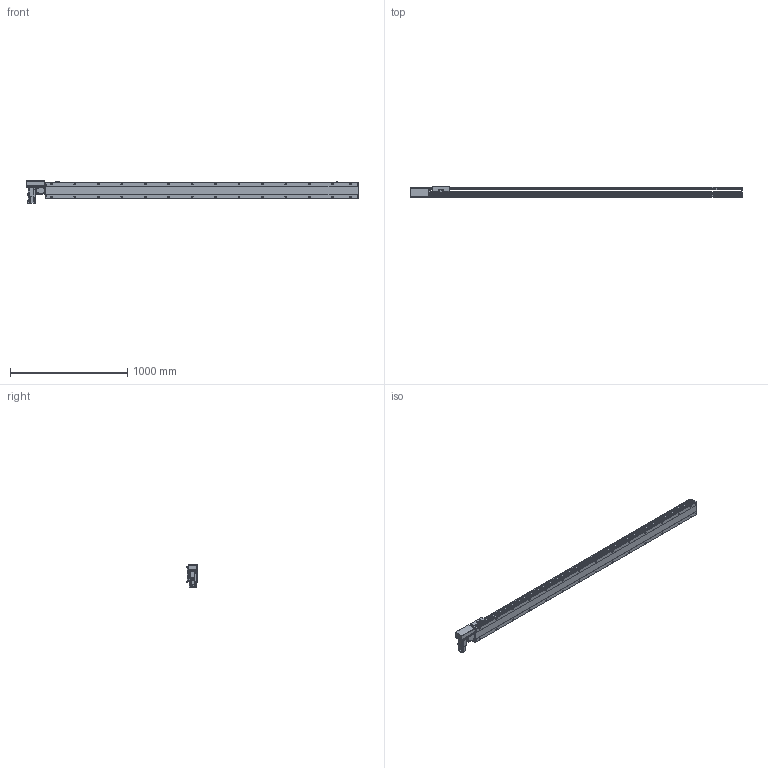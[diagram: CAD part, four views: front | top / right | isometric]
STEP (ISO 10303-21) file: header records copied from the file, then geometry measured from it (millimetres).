
FILE_DESCRIPTION(/* description */ ('STEP AP214'),/* implementation_level */ '2;1');
FILE_NAME(/* name */ 'PBS140S-P40-S2400-R-T40-C1-N(0)',/* time_stamp */ '2022-06-09T02:19:42+02:00',/* author */ ('License CC BY-ND 4.0'),/* organization */ ('CADENAS'),/* preprocessor_version */ 'ST-DEVELOPER v18.102',/* originating_system */ 'PARTsolutions',/* authorisation */ ' ');
FILE_SCHEMA (('AUTOMOTIVE_DESIGN {1 0 10303 214 3 1 1}'));
Length unit declared in the file: millimetre
Products named in the file (7): PBS140S-P40-S2400-R-T40-C1-N(0); PBS140S_sensor; PBS140S_plant; PBS140S_sliser; T40-p1; PBS140ST-R_motors; PBS140S-S2400()_body
Assembly tree (8 placements, depth 2):
  PBS140S-P40-S2400-R-T40-C1-N(0)
    PBS140S_sensor  x3
    PBS140S_plant
    PBS140S_sliser
    T40-p1
    PBS140ST-R_motors
    PBS140S-S2400()_body
Bounding box: 2833 x 93 x 189.7 mm (x, y, z)
Volume: 13415031.7 mm3; surface area: 2262175.5 mm2
Topology: 8 solids, 8 shells, 1195 faces, 3151 edges, 2061 vertices
Faces by surface type: plane 738, cylinder 393, cone 54, sphere 8, torus 2
Full cylindrical faces by diameter (mm): 3.242 x4, 4 x2, 4.134 x4, 4.4 x8, 4.5 x2, 4.8 x4, 4.917 x36, 5.5 x7, 6 x2, 7 x30, 7.5 x8, 8 x12, 8.5 x4, 10.5 x28, 14 x1, 30 x2, 50 x2
Entity records: 34244 total; most frequent: CARTESIAN_POINT 6488, DIRECTION 5768, ORIENTED_EDGE 5422, EDGE_CURVE 2711, AXIS2_PLACEMENT_3D 2039, VERTEX_POINT 1897, LINE 1690, VECTOR 1690
